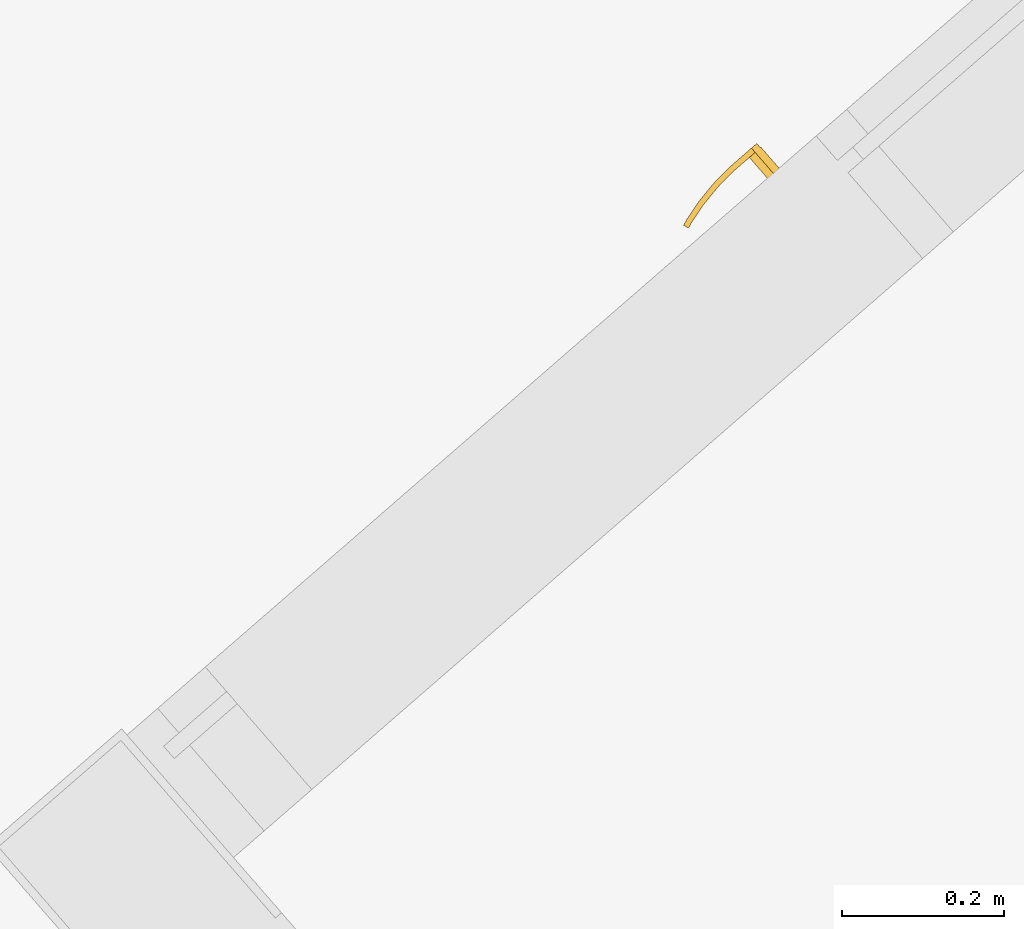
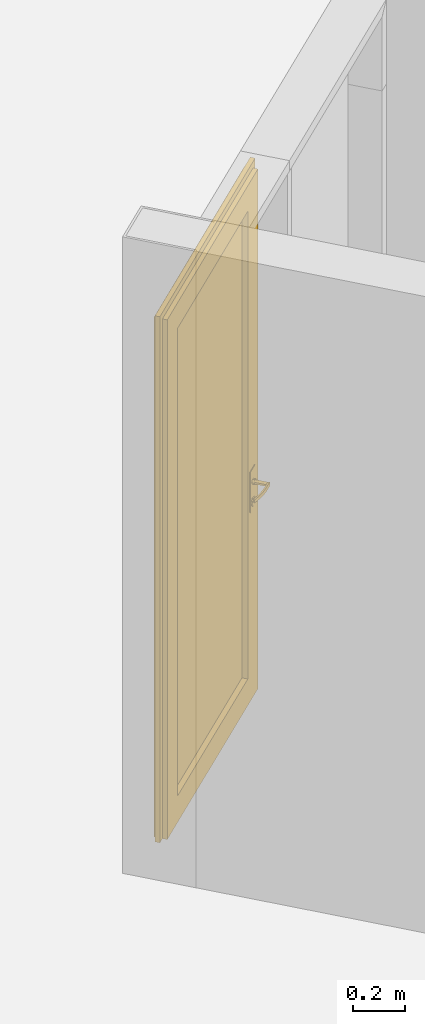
# One storey, part 106 of 124: 1 door, 1 element without a shape of its own.
"""IFC2X3 building model written with IfcOpenShell, lengths in millimetres."""

from ifc_helpers import new_model, entity, si_unit, converted_unit, derived_unit, money_unit, direction, frame, origin_with_axes, place, context, subcontext, project, spatial, open_shell, faceted_brep, surface_model, material, material_list, type_object, element, aggregate, save


model = new_model("IFC2X3")

# Units and contexts
model_context = context("Model", 3, precision=1e-05, world=origin_with_axes(), true_north=direction((0.0, 1.0)))
body_context = subcontext(model_context, "Body", "Model", "MODEL_VIEW")
ifc_project = project(units=[si_unit("LENGTHUNIT", "METRE", prefix="MILLI"), si_unit("AREAUNIT", "SQUARE_METRE"), si_unit("VOLUMEUNIT", "CUBIC_METRE"), converted_unit("PLANEANGLEUNIT", "DEGREE", entity("IfcPlaneAngleMeasure", 0.0174532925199), si_unit("PLANEANGLEUNIT", "RADIAN"), dimensions=[0, 0, 0, 0, 0, 0, 0]), si_unit("SOLIDANGLEUNIT", "STERADIAN"), money_unit("EUR"), converted_unit("TIMEUNIT", "Year", entity("IfcTimeMeasure", 31556926.0), si_unit("TIMEUNIT", "SECOND"), dimensions=[0, 0, 1, 0, 0, 0, 0]), si_unit("MASSUNIT", "GRAM", prefix="KILO"), si_unit("THERMODYNAMICTEMPERATUREUNIT", "DEGREE_CELSIUS"), si_unit("LUMINOUSINTENSITYUNIT", "LUMEN"), si_unit("ENERGYUNIT", "JOULE", prefix="MEGA"), derived_unit("THERMALCONDUCTANCEUNIT", [(si_unit("POWERUNIT", "WATT"), 1), (si_unit("LENGTHUNIT", "METRE"), -1), (si_unit("THERMODYNAMICTEMPERATUREUNIT", "KELVIN"), -1)]), derived_unit("SPECIFICHEATCAPACITYUNIT", [(si_unit("ENERGYUNIT", "JOULE"), 1), (si_unit("MASSUNIT", "GRAM", prefix="KILO"), -1), (si_unit("THERMODYNAMICTEMPERATUREUNIT", "KELVIN"), -1)]), derived_unit("MASSDENSITYUNIT", [(si_unit("MASSUNIT", "GRAM", prefix="KILO"), 1), (si_unit("VOLUMEUNIT", "CUBIC_METRE"), -1)])], contexts=[model_context])

# Site, building, storey
site_placement = place(None, origin_with_axes())
site = spatial("IfcSite", under=ifc_project, at=site_placement, Name="Site", CompositionType="ELEMENT")
building_placement = place(site_placement, origin_with_axes())
building = spatial("IfcBuilding", under=site, at=building_placement, Name="Building", CompositionType="ELEMENT")
storey_placement = place(building_placement, frame((0.0, 0.0, -1615.0), z_axis=(0.0, 0.0, 1.0), x_axis=(1.0, 0.0, 0.0)))
storey = spatial("IfcBuildingStorey", under=building, at=storey_placement, Name="0  korrus", CompositionType="ELEMENT", Elevation=-1615.0)

# Curtain wall, door
curtain_wall_type = type_object("IfcCurtainWallType", Name="KS-15", PredefinedType="NOTDEFINED")
curtain_wall_placement = place(storey_placement, frame((150122.79939, 82314.5956207, -1.19209395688e-05), z_axis=(0.0, 0.0, 1.0), x_axis=(1.0, 0.0, 0.0)))
curtain_wall = element("IfcCurtainWall", 1, at=curtain_wall_placement, inside=storey, type_object=curtain_wall_type, Name="Klaas-sein")
ifc_material_1 = material(Name="Aluminium MUST")
ifc_material_2 = material(Name="Klaas")
ifc_material_3 = material(Name="Teras (musta värvi)")
ifc_material_list = material_list([ifc_material_1, ifc_material_1, ifc_material_1, ifc_material_1, ifc_material_1, ifc_material_1, ifc_material_1, ifc_material_1, ifc_material_1, ifc_material_1, ifc_material_1, ifc_material_1, ifc_material_1, ifc_material_2, ifc_material_3, ifc_material_3, ifc_material_3, ifc_material_3, ifc_material_3, ifc_material_3, ifc_material_3, ifc_material_3, ifc_material_3, ifc_material_3, ifc_material_3, ifc_material_3, ifc_material_3, ifc_material_3])
door_style = type_object("IfcDoorStyle", Name="1130 x 380 x 20", ConstructionType="NOTDEFINED", OperationType="NOTDEFINED", ParameterTakesPrecedence=False, Sizeable=False)
door_placement = place(curtain_wall_placement, frame((0.0, 0.0, 1314.28572053), z_axis=(0.0, 0.0, 1.0), x_axis=(-0.754709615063, -0.656058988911, 0.0)))
door = element("IfcDoor", 2, at=door_placement, type_object=door_style, material=ifc_material_list, Name="Klaas-seinaintegreeritud siseuks * CW Door 22", context=body_context, shape_type="SurfaceModel", body=[
    faceted_brep([(-613.888892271, -20.0, -1314.28572053), (-613.888892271, -25.0, -1314.28572053), (-613.888892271, -25.0, 1135.71428921), (-613.888892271, -20.0, 1135.71428921), (-568.888892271, -20.0, -1314.28572053), (-568.888892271, -25.0, -1314.28572053), (-568.888892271, -25.0, 1090.71428921), (-568.888892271, -20.0, 1090.71428921)], [[[0, 1, 2, 3]], [[4, 5, 1, 0]], [[1, 5, 6, 2]], [[3, 2, 6, 7]], [[0, 3, 7, 4]], [[7, 6, 5, 4]]]),
    faceted_brep([(461.111112, -20.0, 1135.71428921), (461.111112, -25.0, 1135.71428921), (416.111112, -25.0, 1090.71428921), (416.111112, -20.0, 1090.71428921), (-613.888892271, -20.0, 1135.71428921), (-613.888892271, -25.0, 1135.71428921), (-568.888892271, -25.0, 1090.71428921), (-568.888892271, -20.0, 1090.71428921)], [[[0, 1, 2, 3]], [[4, 5, 1, 0]], [[1, 5, 6, 2]], [[3, 2, 6, 7]], [[0, 3, 7, 4]], [[7, 6, 5, 4]]]),
    faceted_brep([(461.111112, -20.0, -1314.28572053), (461.111112, -25.0, -1314.28572053), (416.111112, -25.0, -1314.28572053), (416.111112, -20.0, -1314.28572053), (461.111112, -20.0, 1135.71428921), (461.111112, -25.0, 1135.71428921), (416.111112, -25.0, 1090.71428921), (416.111112, -20.0, 1090.71428921)], [[[0, 1, 2, 3]], [[4, 5, 1, 0]], [[1, 5, 6, 2]], [[3, 2, 6, 7]], [[0, 3, 7, 4]], [[7, 6, 5, 4]]]),
    faceted_brep([(-613.888892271, 30.0, -1314.28572053), (-613.888892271, -20.0, -1314.28572053), (-613.888892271, -20.0, 1135.71428921), (-613.888892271, 30.0, 1135.71428921), (-593.888892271, 30.0, -1314.28572053), (-593.888892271, -20.0, -1314.28572053), (-593.888892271, -20.0, 1115.71428921), (-593.888892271, 30.0, 1115.71428921)], [[[0, 1, 2, 3]], [[4, 5, 1, 0]], [[1, 5, 6, 2]], [[3, 2, 6, 7]], [[0, 3, 7, 4]], [[7, 6, 5, 4]]]),
    faceted_brep([(461.111112, 30.0, 1135.71428921), (461.111112, -20.0, 1135.71428921), (441.111112, -20.0, 1115.71428921), (441.111112, 30.0, 1115.71428921), (-613.888892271, 30.0, 1135.71428921), (-613.888892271, -20.0, 1135.71428921), (-593.888892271, -20.0, 1115.71428921), (-593.888892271, 30.0, 1115.71428921)], [[[0, 1, 2, 3]], [[4, 5, 1, 0]], [[1, 5, 6, 2]], [[3, 2, 6, 7]], [[0, 3, 7, 4]], [[7, 6, 5, 4]]]),
    faceted_brep([(461.111112, 30.0, -1314.28572053), (461.111112, -20.0, -1314.28572053), (441.111112, -20.0, -1314.28572053), (441.111112, 30.0, -1314.28572053), (461.111112, 30.0, 1135.71428921), (461.111112, -20.0, 1135.71428921), (441.111112, -20.0, 1115.71428921), (441.111112, 30.0, 1115.71428921)], [[[0, 1, 2, 3]], [[4, 5, 1, 0]], [[1, 5, 6, 2]], [[3, 2, 6, 7]], [[0, 3, 7, 4]], [[7, 6, 5, 4]]]),
    faceted_brep([(-593.888892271, 30.0, -1314.28572053), (-593.888892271, -20.0, -1314.28572053), (-593.888892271, -20.0, -1289.28572053), (-593.888892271, 30.0, -1289.28572053), (441.111112, 30.0, -1314.28572053), (441.111112, -20.0, -1314.28572053), (441.111112, -20.0, -1289.28572053), (441.111112, 30.0, -1289.28572053)], [[[0, 1, 2, 3]], [[4, 5, 1, 0]], [[1, 5, 6, 2]], [[3, 2, 6, 7]], [[0, 3, 7, 4]], [[7, 6, 5, 4]]]),
    faceted_brep([(-638.888892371, 10.0, -1314.28572053), (-638.888892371, -9.99999999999, -1314.28572053), (-638.888892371, -9.99999999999, 1165.71430423), (-638.888892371, 10.0, 1165.71430423), (-613.888892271, 10.0, -1314.28572053), (-613.888892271, -9.99999999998, -1314.28572053), (-613.888892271, -9.99999999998, 1135.71428921), (-613.888892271, 10.0, 1135.71428921)], [[[0, 1, 2, 3]], [[4, 5, 1, 0]], [[1, 5, 6, 2]], [[3, 2, 6, 7]], [[0, 3, 7, 4]], [[7, 6, 5, 4]]]),
    faceted_brep([(-638.888892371, 10.0, 1165.71430423), (-638.888892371, -9.99999999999, 1165.71430423), (491.111127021, -10.0, 1165.71430423), (491.111127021, 10.0, 1165.71430423), (-613.888892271, 10.0, 1135.71428921), (-613.888892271, -9.99999999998, 1135.71428921), (461.111112, -10.0, 1135.71428921), (461.111112, 10.0, 1135.71428921)], [[[0, 1, 2, 3]], [[4, 5, 1, 0]], [[1, 5, 6, 2]], [[3, 2, 6, 7]], [[0, 3, 7, 4]], [[7, 6, 5, 4]]]),
    faceted_brep([(491.111127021, 10.0, 1165.71430423), (491.111127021, -10.0, 1165.71430423), (491.111127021, -10.0, -1314.28572053), (491.111127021, 10.0, -1314.28572053), (461.111112, 10.0, 1135.71428921), (461.111112, -10.0, 1135.71428921), (461.111112, -10.0, -1314.28572053), (461.111112, 10.0, -1314.28572053)], [[[0, 1, 2, 3]], [[4, 5, 1, 0]], [[1, 5, 6, 2]], [[3, 2, 6, 7]], [[0, 3, 7, 4]], [[7, 6, 5, 4]]]),
    faceted_brep([(341.111112, -20.0, -1189.28572053), (341.111112, -20.0, 1015.71428921), (341.111112, 30.0, 1015.71428921), (341.111112, 30.0, -1189.28572053), (441.111112, -20.0, -1289.28572053), (441.111112, -20.0, 1115.71428921), (441.111112, 30.0, 1115.71428921), (441.111112, 30.0, -1289.28572053)], [[[0, 1, 2, 3]], [[0, 4, 5, 1]], [[1, 5, 6, 2]], [[3, 2, 6, 7]], [[4, 0, 3, 7]], [[5, 4, 7, 6]]]),
    faceted_brep([(-593.888892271, -20.0, -1289.28572053), (-593.888892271, -20.0, 1115.71428921), (-593.888892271, 30.0, 1115.71428921), (-593.888892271, 30.0, -1289.28572053), (-493.888892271, -20.0, -1189.28572053), (-493.888892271, -20.0, 1015.71428921), (-493.888892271, 30.0, 1015.71428921), (-493.888892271, 30.0, -1189.28572053)], [[[0, 1, 2, 3]], [[0, 4, 5, 1]], [[1, 5, 6, 2]], [[3, 2, 6, 7]], [[4, 0, 3, 7]], [[5, 4, 7, 6]]]),
    faceted_brep([(-593.888892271, -20.0, -1289.28572053), (-493.888892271, -20.0, -1189.28572053), (-493.888892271, 30.0, -1189.28572053), (-593.888892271, 30.0, -1289.28572053), (441.111112, -20.0, -1289.28572053), (341.111112, -20.0, -1189.28572053), (341.111112, 30.0, -1189.28572053), (441.111112, 30.0, -1289.28572053)], [[[0, 1, 2, 3]], [[0, 4, 5, 1]], [[1, 5, 6, 2]], [[3, 2, 6, 7]], [[4, 0, 3, 7]], [[5, 4, 7, 6]]]),
    faceted_brep([(441.111112, -20.0, 1115.71428921), (341.111112, -20.0, 1015.71428921), (341.111112, 30.0, 1015.71428921), (441.111112, 30.0, 1115.71428921), (-593.888892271, -20.0, 1115.71428921), (-493.888892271, -20.0, 1015.71428921), (-493.888892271, 30.0, 1015.71428921), (-593.888892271, 30.0, 1115.71428921)], [[[0, 1, 2, 3]], [[0, 4, 5, 1]], [[1, 5, 6, 2]], [[3, 2, 6, 7]], [[4, 0, 3, 7]], [[5, 4, 7, 6]]]),
    faceted_brep([(341.111112, -9.99999999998, -1189.28572053), (-493.888892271, -9.99999999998, -1189.28572053), (-493.888892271, 6.00000000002, -1189.28572053), (341.111112, 6.00000000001, -1189.28572053), (341.111112, -9.99999999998, 1015.71428921), (-493.888892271, -9.99999999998, 1015.71428921), (-493.888892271, 6.00000000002, 1015.71428921), (341.111112, 6.00000000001, 1015.71428921)], [[[0, 1, 2, 3]], [[0, 4, 5, 1]], [[1, 5, 6, 2]], [[3, 2, 6, 7]], [[4, 0, 3, 7]], [[5, 4, 7, 6]]]),
    faceted_brep([(-572.388892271, 30.0, -229.28572053), (-515.388892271, 30.0, -229.28572053), (-515.388892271, 33.0, -229.28572053), (-572.388892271, 33.0, -229.28572053), (-572.388892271, 30.0, -419.28572053), (-515.388892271, 30.0, -419.28572053), (-515.388892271, 33.0, -419.28572053), (-572.388892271, 33.0, -419.28572053)], [[[0, 1, 2, 3]], [[0, 4, 5, 1]], [[1, 5, 6, 2]], [[3, 2, 6, 7]], [[4, 0, 3, 7]], [[5, 4, 7, 6]]]),
    surface_model("IfcShellBasedSurfaceModel", [(-543.888892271, 94.0, -299.28572053), (-552.549146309, 94.0, -294.28572053), (-552.549146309, 101.0, -294.28572053), (-543.888892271, 101.0, -299.28572053), (-518.888892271, 94.0, -299.28572053), (-518.888892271, 94.0, -279.28572053), (-543.888892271, 94.0, -279.28572053), (-552.549146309, 94.0, -284.28572053), (-552.549146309, 101.0, -284.28572053), (-543.888892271, 101.0, -279.28572053), (-518.888892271, 101.0, -279.28572053), (-518.888892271, 101.0, -299.28572053)], [open_shell([[[0, 1, 2, 3]], [[0, 4, 5, 6, 7, 1]], [[1, 7, 8, 2]], [[3, 2, 8, 9, 10, 11]], [[4, 0, 3, 11]], [[6, 5, 10, 9]], [[7, 6, 9, 8]]])]),
    surface_model("IfcShellBasedSurfaceModel", [(-518.888892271, 94.0, -279.28572053), (-505.790609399, 94.0, -279.678419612), (-505.484982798, 101.0, -279.678419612), (-518.888892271, 94.0, -299.28572053), (-505.790609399, 94.0, -298.893021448), (-478.779175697, 98.6635446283, -280.463817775), (-518.888892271, 101.0, -279.28572053), (-518.888892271, 101.0, -299.28572053), (-479.693729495, 91.7168188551, -298.107623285), (-479.693729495, 91.7168188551, -280.463817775), (-478.779175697, 98.6635446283, -298.107623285), (-505.484982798, 101.0, -298.893021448), (-453.895148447, 87.1678329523, -297.322225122), (-453.895148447, 87.1678329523, -281.249215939), (-452.378627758, 94.0084157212, -281.249215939), (-452.378627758, 94.0084157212, -297.322225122), (-428.591209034, 80.3876628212, -296.536826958), (-428.591209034, 80.3876628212, -282.034614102), (-426.484263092, 87.0700416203, -282.034614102), (-426.484263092, 87.0700416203, -296.536826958), (-420.718334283, 77.5221707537, -296.28572053), (-420.718334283, 77.5221707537, -282.28572053), (-418.42768793, 84.1376880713, -282.28572053), (-418.42768793, 84.1376880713, -296.28572053)], [open_shell([[[0, 1, 2]], [[0, 3, 4, 1]], [[1, 5, 2]], [[0, 2, 6]], [[4, 3, 7]], [[1, 4, 8, 9]], [[1, 9, 5]], [[2, 5, 10, 11]], [[6, 2, 11, 7]], [[4, 7, 11]], [[8, 4, 11]], [[9, 8, 12, 13]], [[9, 14, 5]], [[5, 14, 15, 10]], [[8, 11, 10]], [[12, 8, 10]], [[13, 12, 16, 17]], [[9, 13, 14]], [[14, 18, 19, 15]], [[12, 10, 15]], [[16, 12, 15]], [[17, 16, 20, 21]], [[13, 17, 18]], [[13, 18, 14]], [[18, 22, 23, 19]], [[16, 15, 19]], [[20, 16, 19]], [[21, 20, 23, 22]], [[17, 21, 22]], [[17, 22, 18]], [[20, 19, 23]]])]),
    faceted_brep([(-540.180688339, 43.0, -300.698398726), (-531.888892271, 43.0, -289.28572053), (-530.888892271, 33.0, -289.28572053), (-539.871671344, 33.0, -301.649455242), (-553.597096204, 43.0, -296.339143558), (-553.597096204, 43.0, -282.232297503), (-540.180688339, 43.0, -277.873042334), (-539.871671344, 33.0, -276.921985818), (-554.406113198, 33.0, -281.64451225), (-554.406113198, 33.0, -296.92692881)], [[[0, 1, 2, 3]], [[1, 0, 4, 5, 6]], [[1, 6, 7, 2]], [[2, 7, 8, 9, 3]], [[4, 0, 3, 9]], [[5, 4, 9, 8]], [[6, 5, 8, 7]]]),
    faceted_brep([(-537.708552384, 37.0, -403.306850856), (-523.888892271, 37.0, -384.28572053), (-521.888892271, 33.0, -384.28572053), (-537.090518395, 33.0, -405.208963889), (-560.069232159, 37.0, -396.041425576), (-560.069232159, 37.0, -372.530015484), (-537.708552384, 37.0, -365.264590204), (-537.090518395, 33.0, -363.362477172), (-561.687266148, 33.0, -371.35444498), (-561.687266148, 33.0, -397.21699608)], [[[0, 1, 2, 3]], [[1, 0, 4, 5, 6]], [[1, 6, 7, 2]], [[2, 7, 8, 9, 3]], [[4, 0, 3, 9]], [[5, 4, 9, 8]], [[6, 5, 8, 7]]]),
    faceted_brep([(-541.725773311, 39.0, -381.943116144), (-536.888892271, 39.0, -375.28572053), (-535.888892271, 37.0, -375.28572053), (-541.416756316, 37.0, -382.89417266), (-549.552011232, 39.0, -379.400217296), (-549.552011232, 39.0, -371.171223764), (-541.725773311, 39.0, -368.628324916), (-541.416756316, 37.0, -367.6772684), (-550.361028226, 37.0, -370.583438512), (-550.361028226, 37.0, -379.988002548)], [[[0, 1, 2, 3]], [[1, 0, 4, 5, 6]], [[1, 6, 7, 2]], [[2, 7, 8, 9, 3]], [[4, 0, 3, 9]], [[5, 4, 9, 8]], [[6, 5, 8, 7]]]),
    faceted_brep([(-543.888892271, 43.0, -279.28572053), (-534.378327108, 43.0, -286.195550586), (-534.378327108, 94.0, -286.195550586), (-543.888892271, 94.0, -279.28572053), (-553.399457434, 43.0, -286.195550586), (-549.766744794, 43.0, -297.375890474), (-538.011039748, 43.0, -297.375890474), (-538.011039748, 94.0, -297.375890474), (-549.766744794, 94.0, -297.375890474), (-553.399457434, 94.0, -286.195550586)], [[[0, 1, 2, 3]], [[0, 4, 5, 6, 1]], [[1, 6, 7, 2]], [[3, 2, 7, 8, 9]], [[4, 0, 3, 9]], [[5, 4, 9, 8]], [[6, 5, 8, 7]]]),
    faceted_brep([(-572.388892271, -20.0, -229.28572053), (-572.388892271, -23.0, -229.28572053), (-515.388892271, -23.0, -229.28572053), (-515.388892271, -20.0, -229.28572053), (-572.388892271, -20.0, -419.28572053), (-572.388892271, -23.0, -419.28572053), (-515.388892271, -23.0, -419.28572053), (-515.388892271, -20.0, -419.28572053)], [[[0, 1, 2, 3]], [[4, 5, 1, 0]], [[1, 5, 6, 2]], [[3, 2, 6, 7]], [[0, 3, 7, 4]], [[7, 6, 5, 4]]]),
    surface_model("IfcShellBasedSurfaceModel", [(-543.888892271, -84.0, -299.28572053), (-543.888892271, -91.0, -299.28572053), (-552.549146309, -91.0, -294.28572053), (-552.549146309, -84.0, -294.28572053), (-518.888892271, -84.0, -299.28572053), (-518.888892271, -91.0, -299.28572053), (-518.888892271, -91.0, -279.28572053), (-543.888892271, -91.0, -279.28572053), (-552.549146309, -91.0, -284.28572053), (-552.549146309, -84.0, -284.28572053), (-543.888892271, -84.0, -279.28572053), (-518.888892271, -84.0, -279.28572053)], [open_shell([[[0, 1, 2, 3]], [[4, 5, 1, 0]], [[1, 5, 6, 7, 8, 2]], [[3, 2, 8, 9]], [[0, 3, 9, 10, 11, 4]], [[10, 7, 6, 11]], [[9, 8, 7, 10]]])]),
    surface_model("IfcShellBasedSurfaceModel", [(-518.888892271, -84.0, -279.28572053), (-505.484982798, -91.0, -279.678419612), (-505.790609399, -84.0, -279.678419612), (-518.888892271, -91.0, -279.28572053), (-478.779175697, -88.6635446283, -280.463817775), (-505.790609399, -84.0, -298.893021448), (-518.888892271, -84.0, -299.28572053), (-518.888892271, -91.0, -299.28572053), (-505.484982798, -91.0, -298.893021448), (-478.779175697, -88.6635446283, -298.107623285), (-479.693729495, -81.716818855, -280.463817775), (-479.693729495, -81.716818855, -298.107623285), (-452.378627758, -84.0084157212, -297.322225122), (-452.378627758, -84.0084157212, -281.249215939), (-453.895148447, -77.1678329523, -281.249215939), (-453.895148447, -77.1678329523, -297.322225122), (-426.484263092, -77.0700416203, -296.536826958), (-426.484263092, -77.0700416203, -282.034614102), (-428.591209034, -70.3876628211, -282.034614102), (-428.591209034, -70.3876628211, -296.536826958), (-418.42768793, -74.1376880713, -296.28572053), (-418.42768793, -74.1376880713, -282.28572053), (-420.718334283, -67.5221707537, -282.28572053), (-420.718334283, -67.5221707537, -296.28572053)], [open_shell([[[0, 1, 2]], [[0, 3, 1]], [[2, 1, 4]], [[0, 2, 5, 6]], [[3, 7, 8, 1]], [[1, 8, 9, 4]], [[2, 4, 10]], [[2, 10, 11, 5]], [[5, 7, 6]], [[5, 8, 7]], [[11, 9, 8]], [[4, 9, 12, 13]], [[10, 4, 13]], [[10, 14, 15, 11]], [[11, 8, 5]], [[15, 9, 11]], [[15, 12, 9]], [[13, 12, 16, 17]], [[10, 13, 14]], [[14, 18, 19, 15]], [[19, 12, 15]], [[19, 16, 12]], [[17, 16, 20, 21]], [[14, 13, 17]], [[14, 17, 18]], [[18, 22, 23, 19]], [[23, 16, 19]], [[23, 20, 16]], [[22, 21, 20, 23]], [[18, 17, 21]], [[18, 21, 22]]])]),
    faceted_brep([(-540.180688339, -33.0, -300.698398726), (-539.871671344, -23.0, -301.649455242), (-530.888892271, -23.0, -289.28572053), (-531.888892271, -33.0, -289.28572053), (-553.597096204, -33.0, -296.339143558), (-554.406113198, -23.0, -296.92692881), (-554.406113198, -23.0, -281.64451225), (-539.871671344, -23.0, -276.921985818), (-540.180688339, -33.0, -277.873042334), (-553.597096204, -33.0, -282.232297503)], [[[0, 1, 2, 3]], [[4, 5, 1, 0]], [[2, 1, 5, 6, 7]], [[3, 2, 7, 8]], [[3, 8, 9, 4, 0]], [[9, 6, 5, 4]], [[8, 7, 6, 9]]]),
    faceted_brep([(-537.708552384, -27.0, -403.306850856), (-537.090518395, -23.0, -405.208963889), (-521.888892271, -23.0, -384.28572053), (-523.888892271, -27.0, -384.28572053), (-560.069232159, -27.0, -396.041425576), (-561.687266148, -23.0, -397.21699608), (-561.687266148, -23.0, -371.35444498), (-537.090518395, -23.0, -363.362477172), (-537.708552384, -27.0, -365.264590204), (-560.069232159, -27.0, -372.530015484)], [[[0, 1, 2, 3]], [[4, 5, 1, 0]], [[2, 1, 5, 6, 7]], [[3, 2, 7, 8]], [[3, 8, 9, 4, 0]], [[9, 6, 5, 4]], [[8, 7, 6, 9]]]),
    faceted_brep([(-541.725773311, -29.0, -381.943116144), (-541.416756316, -27.0, -382.89417266), (-535.888892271, -27.0, -375.28572053), (-536.888892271, -29.0, -375.28572053), (-549.552011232, -29.0, -379.400217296), (-550.361028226, -27.0, -379.988002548), (-550.361028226, -27.0, -370.583438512), (-541.416756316, -27.0, -367.6772684), (-541.725773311, -29.0, -368.628324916), (-549.552011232, -29.0, -371.171223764)], [[[0, 1, 2, 3]], [[4, 5, 1, 0]], [[2, 1, 5, 6, 7]], [[3, 2, 7, 8]], [[3, 8, 9, 4, 0]], [[9, 6, 5, 4]], [[8, 7, 6, 9]]]),
    faceted_brep([(-543.888892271, -33.0, -279.28572053), (-543.888892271, -84.0, -279.28572053), (-534.378327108, -84.0, -286.195550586), (-534.378327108, -33.0, -286.195550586), (-553.399457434, -33.0, -286.195550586), (-553.399457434, -84.0, -286.195550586), (-549.766744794, -84.0, -297.375890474), (-538.011039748, -84.0, -297.375890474), (-538.011039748, -33.0, -297.375890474), (-549.766744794, -33.0, -297.375890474)], [[[0, 1, 2, 3]], [[4, 5, 1, 0]], [[1, 5, 6, 7, 2]], [[3, 2, 7, 8]], [[0, 3, 8, 9, 4]], [[9, 6, 5, 4]], [[8, 7, 6, 9]]]),
])
aggregate(curtain_wall, [door])

save(model, "model.ifc")
